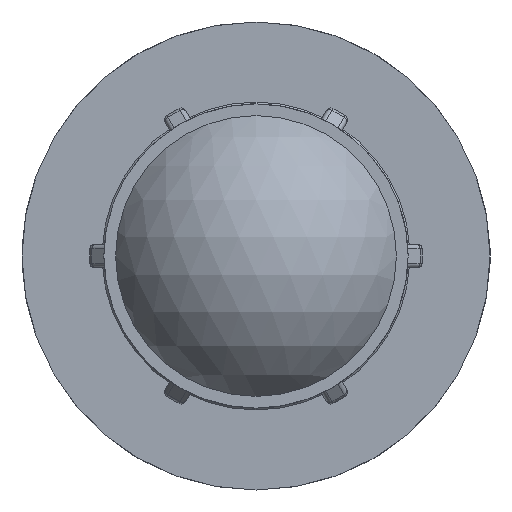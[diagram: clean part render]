
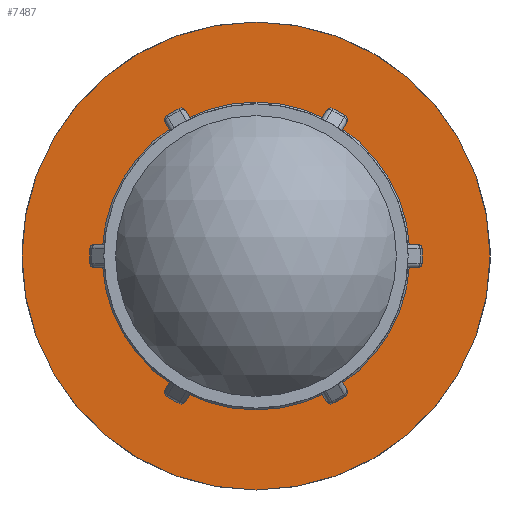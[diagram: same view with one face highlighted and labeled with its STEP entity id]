
A CAD part, left-side view. The second image highlights one B-rep face of the part: STEP entity #7487.
In plain terms, the highlighted planar face has unit normal (-1, 0, 0).
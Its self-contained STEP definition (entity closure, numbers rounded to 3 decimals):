
#23=FACE_BOUND('',#1402,.T.);
#105=ELLIPSE('',#7564,0.707,0.5);
#106=ELLIPSE('',#7585,0.707,0.5);
#109=ELLIPSE('',#7680,0.707,0.5);
#110=ELLIPSE('',#7701,0.707,0.5);
#113=ELLIPSE('',#7796,0.707,0.5);
#114=ELLIPSE('',#7817,0.707,0.5);
#117=ELLIPSE('',#7912,0.707,0.5);
#118=ELLIPSE('',#7933,0.707,0.5);
#121=ELLIPSE('',#8028,0.707,0.5);
#122=ELLIPSE('',#8049,0.707,0.5);
#126=ELLIPSE('',#8325,0.707,0.5);
#127=ELLIPSE('',#8346,0.707,0.5);
#279=PLANE('',#8402);
#931=FACE_OUTER_BOUND('',#1401,.T.);
#1401=EDGE_LOOP('',(#6788));
#1402=EDGE_LOOP('',(#6789,#6790,#6791,#6792,#6793,#6794,#6795,#6796,#6797,
#6798,#6799,#6800,#6801,#6802,#6803,#6804,#6805,#6806,#6807,#6808,#6809,
#6810,#6811,#6812));
#1449=LINE('',#11014,#1899);
#1508=LINE('',#11487,#1958);
#1567=LINE('',#11962,#2017);
#1626=LINE('',#12437,#2076);
#1685=LINE('',#12910,#2135);
#1834=LINE('',#14273,#2284);
#1899=VECTOR('',#8589,1.5);
#1958=VECTOR('',#8880,1.5);
#2017=VECTOR('',#9171,1.5);
#2076=VECTOR('',#9462,1.5);
#2135=VECTOR('',#9753,1.5);
#2284=VECTOR('',#10496,1.5);
#2711=CIRCLE('',#8216,16.44);
#2713=CIRCLE('',#8219,16.44);
#2715=CIRCLE('',#8222,16.44);
#2717=CIRCLE('',#8225,16.44);
#2719=CIRCLE('',#8228,16.44);
#2722=CIRCLE('',#8232,16.44);
#2812=CIRCLE('',#8403,25.);
#2874=VERTEX_POINT('',#10994);
#2875=VERTEX_POINT('',#11006);
#2877=VERTEX_POINT('',#11012);
#2890=VERTEX_POINT('',#11069);
#2963=VERTEX_POINT('',#11467);
#2964=VERTEX_POINT('',#11479);
#2966=VERTEX_POINT('',#11485);
#2979=VERTEX_POINT('',#11542);
#3052=VERTEX_POINT('',#11942);
#3053=VERTEX_POINT('',#11954);
#3055=VERTEX_POINT('',#11960);
#3068=VERTEX_POINT('',#12017);
#3141=VERTEX_POINT('',#12417);
#3142=VERTEX_POINT('',#12429);
#3144=VERTEX_POINT('',#12435);
#3157=VERTEX_POINT('',#12492);
#3230=VERTEX_POINT('',#12890);
#3231=VERTEX_POINT('',#12902);
#3233=VERTEX_POINT('',#12908);
#3246=VERTEX_POINT('',#12965);
#3394=VERTEX_POINT('',#13931);
#3399=VERTEX_POINT('',#13968);
#3452=VERTEX_POINT('',#14265);
#3454=VERTEX_POINT('',#14271);
#3483=VERTEX_POINT('',#14444);
#3572=EDGE_CURVE('',#2875,#2874,#105,.F.);
#3575=EDGE_CURVE('',#2875,#2877,#1449,.T.);
#3600=EDGE_CURVE('',#2877,#2890,#106,.T.);
#3714=EDGE_CURVE('',#2964,#2963,#109,.F.);
#3717=EDGE_CURVE('',#2964,#2966,#1508,.T.);
#3742=EDGE_CURVE('',#2966,#2979,#110,.T.);
#3856=EDGE_CURVE('',#3053,#3052,#113,.F.);
#3859=EDGE_CURVE('',#3053,#3055,#1567,.T.);
#3884=EDGE_CURVE('',#3055,#3068,#114,.T.);
#3998=EDGE_CURVE('',#3142,#3141,#117,.F.);
#4001=EDGE_CURVE('',#3142,#3144,#1626,.T.);
#4026=EDGE_CURVE('',#3144,#3157,#118,.T.);
#4140=EDGE_CURVE('',#3231,#3230,#121,.F.);
#4143=EDGE_CURVE('',#3231,#3233,#1685,.T.);
#4168=EDGE_CURVE('',#3233,#3246,#122,.T.);
#4421=EDGE_CURVE('',#3394,#3230,#2711,.T.);
#4425=EDGE_CURVE('',#3246,#3141,#2713,.T.);
#4427=EDGE_CURVE('',#3157,#3052,#2715,.T.);
#4429=EDGE_CURVE('',#3068,#2963,#2717,.T.);
#4431=EDGE_CURVE('',#2979,#2874,#2719,.T.);
#4436=EDGE_CURVE('',#2890,#3399,#2722,.T.);
#4534=EDGE_CURVE('',#3452,#3399,#126,.F.);
#4537=EDGE_CURVE('',#3452,#3454,#1834,.T.);
#4561=EDGE_CURVE('',#3454,#3394,#127,.T.);
#4602=EDGE_CURVE('',#3483,#3483,#2812,.T.);
#6788=ORIENTED_EDGE('',*,*,#4602,.F.);
#6789=ORIENTED_EDGE('',*,*,#4436,.T.);
#6790=ORIENTED_EDGE('',*,*,#4534,.F.);
#6791=ORIENTED_EDGE('',*,*,#4537,.T.);
#6792=ORIENTED_EDGE('',*,*,#4561,.T.);
#6793=ORIENTED_EDGE('',*,*,#4421,.T.);
#6794=ORIENTED_EDGE('',*,*,#4140,.F.);
#6795=ORIENTED_EDGE('',*,*,#4143,.T.);
#6796=ORIENTED_EDGE('',*,*,#4168,.T.);
#6797=ORIENTED_EDGE('',*,*,#4425,.T.);
#6798=ORIENTED_EDGE('',*,*,#3998,.F.);
#6799=ORIENTED_EDGE('',*,*,#4001,.T.);
#6800=ORIENTED_EDGE('',*,*,#4026,.T.);
#6801=ORIENTED_EDGE('',*,*,#4427,.T.);
#6802=ORIENTED_EDGE('',*,*,#3856,.F.);
#6803=ORIENTED_EDGE('',*,*,#3859,.T.);
#6804=ORIENTED_EDGE('',*,*,#3884,.T.);
#6805=ORIENTED_EDGE('',*,*,#4429,.T.);
#6806=ORIENTED_EDGE('',*,*,#3714,.F.);
#6807=ORIENTED_EDGE('',*,*,#3717,.T.);
#6808=ORIENTED_EDGE('',*,*,#3742,.T.);
#6809=ORIENTED_EDGE('',*,*,#4431,.T.);
#6810=ORIENTED_EDGE('',*,*,#3572,.F.);
#6811=ORIENTED_EDGE('',*,*,#3575,.T.);
#6812=ORIENTED_EDGE('',*,*,#3600,.T.);
#7487=ADVANCED_FACE('',(#931,#23),#279,.T.);
#7564=AXIS2_PLACEMENT_3D('',#11008,#8583,#8584);
#7585=AXIS2_PLACEMENT_3D('',#11070,#8645,#8646);
#7680=AXIS2_PLACEMENT_3D('',#11481,#8874,#8875);
#7701=AXIS2_PLACEMENT_3D('',#11543,#8936,#8937);
#7796=AXIS2_PLACEMENT_3D('',#11956,#9165,#9166);
#7817=AXIS2_PLACEMENT_3D('',#12018,#9227,#9228);
#7912=AXIS2_PLACEMENT_3D('',#12431,#9456,#9457);
#7933=AXIS2_PLACEMENT_3D('',#12493,#9518,#9519);
#8028=AXIS2_PLACEMENT_3D('',#12904,#9747,#9748);
#8049=AXIS2_PLACEMENT_3D('',#12966,#9809,#9810);
#8216=AXIS2_PLACEMENT_3D('',#13932,#10236,#10237);
#8219=AXIS2_PLACEMENT_3D('',#13950,#10242,#10243);
#8222=AXIS2_PLACEMENT_3D('',#13953,#10248,#10249);
#8225=AXIS2_PLACEMENT_3D('',#13956,#10254,#10255);
#8228=AXIS2_PLACEMENT_3D('',#13959,#10260,#10261);
#8232=AXIS2_PLACEMENT_3D('',#13979,#10268,#10269);
#8325=AXIS2_PLACEMENT_3D('',#14267,#10490,#10491);
#8346=AXIS2_PLACEMENT_3D('',#14321,#10552,#10553);
#8402=AXIS2_PLACEMENT_3D('',#14443,#10677,#10678);
#8403=AXIS2_PLACEMENT_3D('',#14445,#10679,#10680);
#8583=DIRECTION('center_axis',(1.,0.,0.));
#8584=DIRECTION('ref_axis',(0.,0.5,-0.866));
#8589=DIRECTION('',(0.,0.866,0.5));
#8645=DIRECTION('center_axis',(1.,0.,0.));
#8646=DIRECTION('ref_axis',(0.,0.5,-0.866));
#8874=DIRECTION('center_axis',(1.,0.,0.));
#8875=DIRECTION('ref_axis',(0.,-0.5,-0.866));
#8880=DIRECTION('',(0.,0.866,-0.5));
#8936=DIRECTION('center_axis',(1.,0.,0.));
#8937=DIRECTION('ref_axis',(0.,-0.5,-0.866));
#9165=DIRECTION('center_axis',(1.,0.,0.));
#9166=DIRECTION('ref_axis',(0.,-1.,0.));
#9171=DIRECTION('',(0.,0.,-1.));
#9227=DIRECTION('center_axis',(1.,0.,0.));
#9228=DIRECTION('ref_axis',(0.,-1.,0.));
#9456=DIRECTION('center_axis',(1.,0.,0.));
#9457=DIRECTION('ref_axis',(0.,-0.5,0.866));
#9462=DIRECTION('',(0.,-0.866,-0.5));
#9518=DIRECTION('center_axis',(1.,0.,0.));
#9519=DIRECTION('ref_axis',(0.,-0.5,0.866));
#9747=DIRECTION('center_axis',(1.,0.,0.));
#9748=DIRECTION('ref_axis',(0.,0.5,0.866));
#9753=DIRECTION('',(0.,-0.866,0.5));
#9809=DIRECTION('center_axis',(1.,0.,0.));
#9810=DIRECTION('ref_axis',(0.,0.5,0.866));
#10236=DIRECTION('center_axis',(1.,0.,0.));
#10237=DIRECTION('ref_axis',(0.,0.,-1.));
#10242=DIRECTION('center_axis',(1.,0.,0.));
#10243=DIRECTION('ref_axis',(0.,0.,-1.));
#10248=DIRECTION('center_axis',(1.,0.,0.));
#10249=DIRECTION('ref_axis',(0.,0.,-1.));
#10254=DIRECTION('center_axis',(1.,0.,0.));
#10255=DIRECTION('ref_axis',(0.,0.,-1.));
#10260=DIRECTION('center_axis',(1.,0.,0.));
#10261=DIRECTION('ref_axis',(0.,0.,-1.));
#10268=DIRECTION('center_axis',(1.,0.,0.));
#10269=DIRECTION('ref_axis',(0.,0.,-1.));
#10490=DIRECTION('center_axis',(1.,0.,0.));
#10491=DIRECTION('ref_axis',(0.,1.,0.));
#10496=DIRECTION('',(0.,0.,1.));
#10552=DIRECTION('center_axis',(1.,0.,0.));
#10553=DIRECTION('ref_axis',(0.,1.,0.));
#10677=DIRECTION('center_axis',(-1.,0.,0.));
#10678=DIRECTION('ref_axis',(0.,0.,1.));
#10679=DIRECTION('center_axis',(1.,0.,0.));
#10680=DIRECTION('ref_axis',(0.,0.,-1.));
#10994=CARTESIAN_POINT('',(27.32,7.448,-14.656));
#11006=CARTESIAN_POINT('',(27.32,7.57,-14.612));
#11008=CARTESIAN_POINT('Origin',(27.32,7.217,-14.));
#11012=CARTESIAN_POINT('',(27.32,8.87,-13.862));
#11014=CARTESIAN_POINT('',(27.32,17.595,-8.825));
#11069=CARTESIAN_POINT('',(27.32,8.968,-13.778));
#11070=CARTESIAN_POINT('Origin',(27.32,8.516,-13.25));
#11467=CARTESIAN_POINT('',(27.32,-8.968,-13.778));
#11479=CARTESIAN_POINT('',(27.32,-8.87,-13.862));
#11481=CARTESIAN_POINT('Origin',(27.32,-8.516,-13.25));
#11485=CARTESIAN_POINT('',(27.32,-7.57,-14.612));
#11487=CARTESIAN_POINT('',(27.32,1.155,-19.65));
#11542=CARTESIAN_POINT('',(27.32,-7.448,-14.656));
#11543=CARTESIAN_POINT('Origin',(27.32,-7.217,-14.));
#11942=CARTESIAN_POINT('',(27.32,-16.417,0.878));
#11954=CARTESIAN_POINT('',(27.32,-16.44,0.75));
#11956=CARTESIAN_POINT('Origin',(27.32,-15.733,0.75));
#11960=CARTESIAN_POINT('',(27.32,-16.44,-0.75));
#11962=CARTESIAN_POINT('',(27.32,-16.44,0.));
#12017=CARTESIAN_POINT('',(27.32,-16.417,-0.878));
#12018=CARTESIAN_POINT('Origin',(27.32,-15.733,-0.75));
#12417=CARTESIAN_POINT('',(27.32,-7.448,14.656));
#12429=CARTESIAN_POINT('',(27.32,-7.57,14.612));
#12431=CARTESIAN_POINT('Origin',(27.32,-7.217,14.));
#12435=CARTESIAN_POINT('',(27.32,-8.87,13.862));
#12437=CARTESIAN_POINT('',(27.32,1.155,19.65));
#12492=CARTESIAN_POINT('',(27.32,-8.968,13.778));
#12493=CARTESIAN_POINT('Origin',(27.32,-8.516,13.25));
#12890=CARTESIAN_POINT('',(27.32,8.968,13.778));
#12902=CARTESIAN_POINT('',(27.32,8.87,13.862));
#12904=CARTESIAN_POINT('Origin',(27.32,8.516,13.25));
#12908=CARTESIAN_POINT('',(27.32,7.57,14.612));
#12910=CARTESIAN_POINT('',(27.32,17.595,8.825));
#12965=CARTESIAN_POINT('',(27.32,7.448,14.656));
#12966=CARTESIAN_POINT('Origin',(27.32,7.217,14.));
#13931=CARTESIAN_POINT('',(27.32,16.417,0.878));
#13932=CARTESIAN_POINT('Origin',(27.32,0.,0.));
#13950=CARTESIAN_POINT('Origin',(27.32,0.,0.));
#13953=CARTESIAN_POINT('Origin',(27.32,0.,0.));
#13956=CARTESIAN_POINT('Origin',(27.32,0.,0.));
#13959=CARTESIAN_POINT('Origin',(27.32,0.,0.));
#13968=CARTESIAN_POINT('',(27.32,16.417,-0.878));
#13979=CARTESIAN_POINT('Origin',(27.32,0.,0.));
#14265=CARTESIAN_POINT('',(27.32,16.44,-0.75));
#14267=CARTESIAN_POINT('Origin',(27.32,15.733,-0.75));
#14271=CARTESIAN_POINT('',(27.32,16.44,0.75));
#14273=CARTESIAN_POINT('',(27.32,16.44,0.));
#14321=CARTESIAN_POINT('Origin',(27.32,15.733,0.75));
#14443=CARTESIAN_POINT('Origin',(27.32,25.,0.));
#14444=CARTESIAN_POINT('',(27.32,25.,0.));
#14445=CARTESIAN_POINT('Origin',(27.32,0.,0.));
